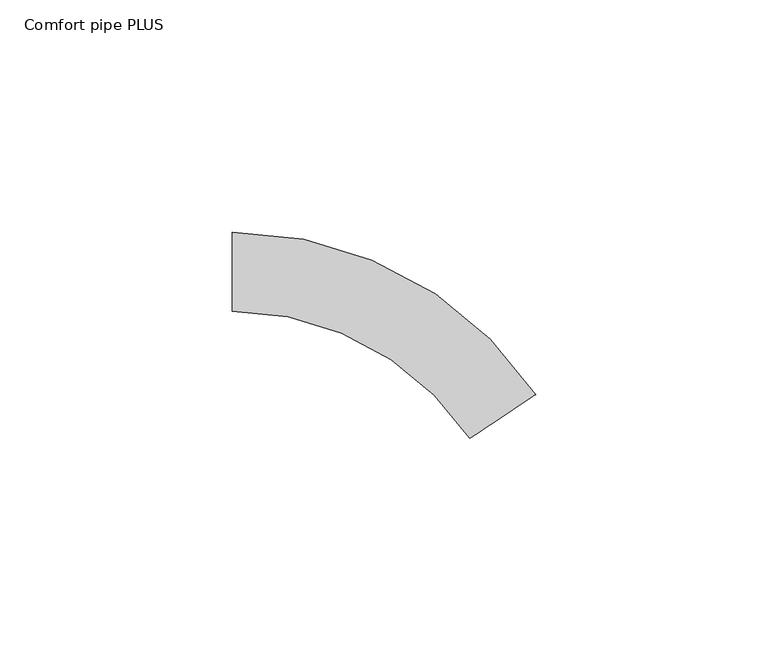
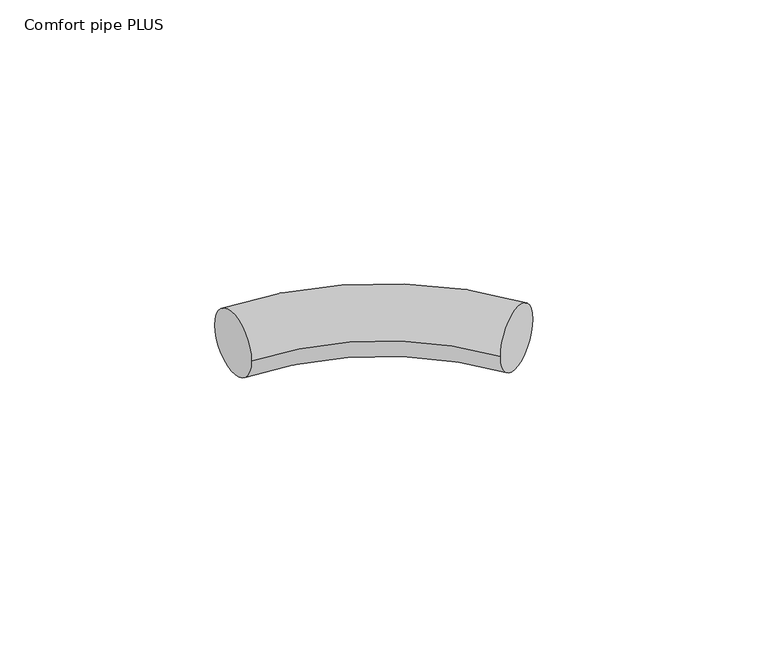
"""IFC4 building model written with IfcOpenShell, lengths in millimetres: pipe fitting geometry, 400_5-_Uponor_curved_Elbow : Comfort pipe PLUS."""

import ifcopenshell
import ifcopenshell.guid

model = None  # the IFC model being written
_history = None  # IfcOwnerHistory: only IFC2X3 demands one
_inside = {}  # id of a spatial element -> (the spatial element, [elements in it])
_under = {}  # id of a project, library or spatial element -> (it, [spatial elements below it])
_declared = {}  # id of a project -> (the project, [libraries it declares])
_typed = {}  # id of a type object -> (the type object, [elements of that type])
_made_of = {}  # id of a material, layer set ... -> (it, [elements and type objects made of it])


def new_model(schema):
    """Start an empty IFC model of exactly this schema.

    Asked for "IFC4X3", IfcOpenShell would pick the latest addendum, in which some entities
    have other attributes; the version numbers below select the first issue.
    IFC2X3 requires an IfcOwnerHistory on every rooted entity: one is made here for all.
    """
    global model, _history
    if schema == "IFC4X3":
        model = ifcopenshell.file(schema_version=(4, 3, 0, 0))
    else:
        model = ifcopenshell.file(schema=schema)
    _inside.clear()
    _under.clear()
    _declared.clear()
    _typed.clear()
    _made_of.clear()
    _history = None
    if model.schema == "IFC2X3":
        org = make("IfcOrganization", Name="unknown")
        user = make(
            "IfcPersonAndOrganization",
            ThePerson=make("IfcPerson", FamilyName="unknown"),
            TheOrganization=org,
        )
        app = make(
            "IfcApplication",
            ApplicationDeveloper=org,
            Version="unknown",
            ApplicationFullName="unknown",
            ApplicationIdentifier="unknown",
        )
        _history = make(
            "IfcOwnerHistory",
            OwningUser=user,
            OwningApplication=app,
            ChangeAction="ADDED",
            CreationDate=0,
        )
    return model


def make(cls, **values):
    """One entity of the class cls with the attributes given. An attribute that is None is left unset."""
    return model.create_entity(
        cls, **{name: value for name, value in values.items() if value is not None}
    )


def rooted(cls, **values):
    """An entity with a GlobalId (a new one), such as an element, a storey or a relation."""
    return make(cls, GlobalId=ifcopenshell.guid.new(), OwnerHistory=_history, **values)


def si_unit(unit_type, name, prefix=None):
    """IfcSIUnit, for example si_unit("LENGTHUNIT", "METRE", prefix="MILLI")."""
    return make("IfcSIUnit", UnitType=unit_type, Prefix=prefix, Name=name)


def assignment(units):
    """IfcUnitAssignment: the units of a project."""
    return None if units is None else make("IfcUnitAssignment", Units=units)


def point(xyz):
    """IfcCartesianPoint."""
    return None if xyz is None else make("IfcCartesianPoint", Coordinates=xyz)


def direction(xyz):
    """IfcDirection."""
    return None if xyz is None else make("IfcDirection", DirectionRatios=xyz)


def frame(location, z_axis=None, x_axis=None):
    """IfcAxis2Placement3D, a coordinate frame: its origin and axes. An axis left out is left unset."""
    return make(
        "IfcAxis2Placement3D",
        Location=point(location),
        Axis=direction(z_axis),
        RefDirection=direction(x_axis),
    )


def origin():
    """The frame at (0, 0, 0) with its axes left unset."""
    return frame((0.0, 0.0, 0.0))


def place(relative_to, where):
    """IfcLocalPlacement: puts the frame where relative to a parent placement (None: the world)."""
    return make(
        "IfcLocalPlacement", PlacementRelTo=relative_to, RelativePlacement=where
    )


def context(
    kind, dimensions, precision=None, world=None, true_north=None, identifier=None
):
    """IfcGeometricRepresentationContext, for example the 3D "Model" context."""
    return make(
        "IfcGeometricRepresentationContext",
        ContextIdentifier=identifier,
        ContextType=kind,
        CoordinateSpaceDimension=dimensions,
        Precision=precision,
        WorldCoordinateSystem=world,
        TrueNorth=true_north,
    )


def project(units=None, contexts=None):
    """IfcProject with its units and contexts."""
    return rooted(
        "IfcProject",
        Name="project",
        RepresentationContexts=contexts,
        UnitsInContext=assignment(units),
    )


def spatial(cls, under=None, at=None, **own):
    """A site, building, storey or space (cls), placed at a placement, below another one or the project."""
    s = rooted(cls, ObjectPlacement=at, **own)
    if under is not None:
        _under.setdefault(under.id(), (under, []))[1].append(s)
    return s


def circle_curve(where, radius):
    """IfcCircle in the frame where."""
    return make("IfcCircle", Position=where, Radius=radius)


def ellipse_curve(where, semi_axis1, semi_axis2):
    """IfcEllipse in the frame where."""
    return make(
        "IfcEllipse", Position=where, SemiAxis1=semi_axis1, SemiAxis2=semi_axis2
    )


def trimmed(basis, trim1, trim2, sense, master):
    """IfcTrimmedCurve: the piece of a basis curve between two trims."""
    return make(
        "IfcTrimmedCurve",
        BasisCurve=basis,
        Trim1=trim1,
        Trim2=trim2,
        SenseAgreement=sense,
        MasterRepresentation=master,
    )


def shape(context_of_items, identifier, shape_type, items):
    """IfcShapeRepresentation: the items that make up one representation, for example the "Body"."""
    return make(
        "IfcShapeRepresentation",
        ContextOfItems=context_of_items,
        RepresentationIdentifier=identifier,
        RepresentationType=shape_type,
        Items=items,
    )


def source(mapping_origin, context_of_items, identifier, shape_type, items):
    """IfcRepresentationMap: a shape defined once, which mapped items show again and again."""
    return make(
        "IfcRepresentationMap",
        MappingOrigin=mapping_origin,
        MappedRepresentation=shape(context_of_items, identifier, shape_type, items),
    )


def transform(
    local_origin,
    x_axis=None,
    y_axis=None,
    z_axis=None,
    scale=None,
    scale2=None,
    scale3=None,
    uniform=True,
):
    """IfcCartesianTransformationOperator3D, or its non-uniform kind. x_axis, y_axis, z_axis: its Axis1, 2, 3."""
    if uniform:
        return make(
            "IfcCartesianTransformationOperator3D",
            Axis1=direction(x_axis),
            Axis2=direction(y_axis),
            LocalOrigin=point(local_origin),
            Scale=scale,
            Axis3=direction(z_axis),
        )
    return make(
        "IfcCartesianTransformationOperator3DnonUniform",
        Axis1=direction(x_axis),
        Axis2=direction(y_axis),
        LocalOrigin=point(local_origin),
        Scale=scale,
        Axis3=direction(z_axis),
        Scale2=scale2,
        Scale3=scale3,
    )


def mapped(mapping_source, mapping_target):
    """IfcMappedItem: shows the shape of a source again, moved by a transform."""
    return make(
        "IfcMappedItem", MappingSource=mapping_source, MappingTarget=mapping_target
    )


def made_of(thing, what):
    """Note that an element or type object is made of a material, layer set ...; save() writes the relation."""
    if what is not None:
        _made_of.setdefault(what.id(), (what, []))[1].append(thing)
    return thing


def element(
    cls,
    number,
    at=None,
    inside=None,
    cuts=None,
    type_object=None,
    material=None,
    context=None,
    identifier="Body",
    shape_type=None,
    held_by="IfcProductDefinitionShape",
    body=None,
    shapes=None,
    **own,
):
    """One element of the class cls, such as IfcWall. Its Tag is "e" and its number.

    at: its placement. inside: the storey or other place that contains it. cuts: it is an
    opening in that element (IfcRelVoidsElement). A single representation is given by context,
    identifier, shape_type and body (its items); several are given by shapes. held_by: the class
    of the entity that holds the representations. save() writes the other relations.
    """
    e = rooted(cls, Tag="e%d" % number, ObjectPlacement=at, **own)
    if body is not None:
        shapes = [shape(context, identifier, shape_type, body)]
    if shapes is not None:
        e.Representation = make(held_by, Representations=shapes)
    if inside is not None:
        _inside.setdefault(inside.id(), (inside, []))[1].append(e)
    if cuts is not None:
        rooted(
            "IfcRelVoidsElement", RelatingBuildingElement=cuts, RelatedOpeningElement=e
        )
    if type_object is not None:
        _typed.setdefault(type_object.id(), (type_object, []))[1].append(e)
    return made_of(e, material)


def aggregate(whole, parts):
    """IfcRelAggregates: a whole, such as a stair, and the parts it consists of."""
    return rooted("IfcRelAggregates", RelatingObject=whole, RelatedObjects=parts)


def save(model, path):
    """Write the relations noted so far, then the file.

    IfcRelAggregates (storeys below a building ...), IfcRelContainedInSpatialStructure (elements
    in a storey), IfcRelDefinesByType, IfcRelAssociatesMaterial and IfcRelDeclares: one each for
    every whole, place, type object, material and project.
    """
    for whole, parts in _under.values():
        aggregate(whole, parts)
    for where, things in _inside.values():
        rooted(
            "IfcRelContainedInSpatialStructure",
            RelatedElements=things,
            RelatingStructure=where,
        )
    for kind, things in _typed.values():
        rooted("IfcRelDefinesByType", RelatedObjects=things, RelatingType=kind)
    for what, things in _made_of.values():
        rooted("IfcRelAssociatesMaterial", RelatedObjects=things, RelatingMaterial=what)
    for by, libraries in _declared.values():
        rooted("IfcRelDeclares", RelatingContext=by, RelatedDefinitions=libraries)
    model.write(path)


def plane_surface(at):
    """IfcPlane: the flat surface through the origin of the frame at, square to its z axis."""
    return make("IfcPlane", Position=at)


def revolved_surface(curve, axis_point, axis_direction):
    """IfcSurfaceOfRevolution: the curve turned about the line through axis_point along axis_direction."""
    return make(
        "IfcSurfaceOfRevolution",
        SweptCurve=make("IfcArbitraryOpenProfileDef", ProfileType="CURVE", Curve=curve),
        AxisPosition=make("IfcAxis1Placement", Location=point(axis_point), Axis=direction(axis_direction)),
    )


def advanced_brep(points, edges, surfaces, faces):
    """IfcAdvancedBrep: a solid bounded by faces that lie on surfaces and meet in shared edges.

    An edge is (start, end): straight between two places in points (the first is 0);
    or (start, end, curve); or (start, end, curve, False) where it runs against its curve.
    A face is (place in surfaces, loops), or (place, loops, False) where it looks against
    its surface's normal. A loop lists edges by number (the first is 1), with a minus sign
    where the edge is run from its end to its start. The first loop is the outer one.
    """
    corners = [point(p) for p in points]
    vertices = [make("IfcVertexPoint", VertexGeometry=c) for c in corners]
    made = []
    for start, end, *more in edges:
        made.append(
            make(
                "IfcEdgeCurve",
                EdgeStart=vertices[start],
                EdgeEnd=vertices[end],
                EdgeGeometry=more[0] if more else make("IfcPolyline", Points=[corners[start], corners[end]]),
                SameSense=more[1] if len(more) > 1 else True,
            )
        )
    hull = []
    for where, loops, *sense in faces:
        bounds = []
        for j, loop in enumerate(loops):
            ring = [make("IfcOrientedEdge", EdgeElement=made[abs(k) - 1], Orientation=k > 0) for k in loop]
            bounds.append(
                make(
                    "IfcFaceOuterBound" if j == 0 else "IfcFaceBound",
                    Bound=make("IfcEdgeLoop", EdgeList=ring),
                    Orientation=True,
                )
            )
        hull.append(make("IfcAdvancedFace", Bounds=bounds, FaceSurface=surfaces[where], SameSense=sense[0] if sense else True))
    return make("IfcAdvancedBrep", Outer=make("IfcClosedShell", CfsFaces=hull))


def comfort_pipe_plus_4085d028(model_context):
    return source(origin(), model_context, "Body", "AdvancedBrep", [
        advanced_brep(
        [(-37.4233564, 8.5, 0.0), (-37.4233564, -8.5, 0.0), (27.8543502, -26.3987269, 0.0), (13.7177768, -35.8410408, 0.0)],
        [
            (0, 1, circle_curve(frame((-37.4233564, 0.0, 0.0), z_axis=(-1.0, 0.0, 0.0), x_axis=(0.0, -1.0, 0.0)), 8.5)),
            (1, 0, circle_curve(frame((-37.4233564, 0.0, 0.0), z_axis=(-1.0, 0.0, 0.0), x_axis=(0.0, -1.0, 0.0)), 8.5)),
            (2, 3, circle_curve(frame((20.7860635, -31.1198838, 0.0), z_axis=(0.5554302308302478, -0.8315631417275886, 0.0), x_axis=(-0.8315631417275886, -0.5554302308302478, 0.0)), 8.5)),
            (3, 2, circle_curve(frame((20.7860635, -31.1198838, 0.0), z_axis=(0.5554302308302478, -0.8315631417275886, 0.0), x_axis=(-0.8315631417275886, -0.5554302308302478, 0.0)), 8.5)),
            (2, 0, circle_curve(frame((-37.4233564, -70.0, 0.0), z_axis=(0.0, 0.0, 1.0), x_axis=(0.0, 1.0, 0.0)), 78.5)),
            (1, 3, circle_curve(frame((-37.4233564, -70.0, 0.0), z_axis=(0.0, 0.0, -1.0), x_axis=(0.0, 1.0, 0.0)), 61.5)),
        ],
        [
            plane_surface(frame((-37.4233564, 0.0, 0.0), z_axis=(-1.0, 0.0, 0.0), x_axis=(0.0, 0.0, 1.0))),
            plane_surface(frame((20.7860635, -31.1198838, 0.0), z_axis=(0.5554302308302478, -0.8315631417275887, 0.0), x_axis=(0.0, 0.0, 1.0))),
            revolved_surface(trimmed(ellipse_curve(frame((-37.4233564, 0.0, 0.0), z_axis=(1.0, 0.0, 0.0), x_axis=(0.0, -1.0, 0.0)), 8.5, 8.5), [point((-37.4233564, 8.5, 0.0))], [point((-37.4233564, -8.5, 0.0))], True, "CARTESIAN"), (-37.4233564, -70.0, 0.0), (0.0, 0.0, 1.0)),
            revolved_surface(trimmed(ellipse_curve(frame((-37.4233564, 0.0, 0.0), z_axis=(1.0, 0.0, 0.0), x_axis=(0.0, -1.0, 0.0)), 8.5, 8.5), [point((-37.4233564, -8.5, 0.0))], [point((-37.4233564, 8.5, 0.0))], True, "CARTESIAN"), (-37.4233564, -70.0, 0.0), (0.0, 0.0, 1.0)),
        ],
        [
            (0, [[1, 2]]),
            (1, [[3, 4]]),
            (2, [[-3, 5, -2, 6]]),
            (3, [[-4, -6, -1, -5]]),
        ],
    ),
    ])


if __name__ == "__main__":
    model = new_model("IFC4")
    model_context = context("Model", 3, world=origin())
    ifc_project = project(units=[si_unit("LENGTHUNIT", "METRE", prefix="MILLI")], contexts=[model_context])
    site = spatial("IfcSite", under=ifc_project)
    building = spatial("IfcBuilding", under=site)
    placement = place(None, origin())
    comfort_pipe_plus_shape = comfort_pipe_plus_4085d028(model_context)
    element("IfcPipeFitting", 1, ObjectType="400_5-_Uponor_curved_Elbow : Comfort pipe PLUS", at=placement, inside=building, context=model_context, shape_type="MappedRepresentation", body=[
        mapped(comfort_pipe_plus_shape, transform((0.0, 0.0, 0.0), x_axis=(1.0, 0.0, 0.0), y_axis=(0.0, 1.0, 0.0), z_axis=(0.0, 0.0, 1.0))),
    ])
    save(model, "model.ifc")
